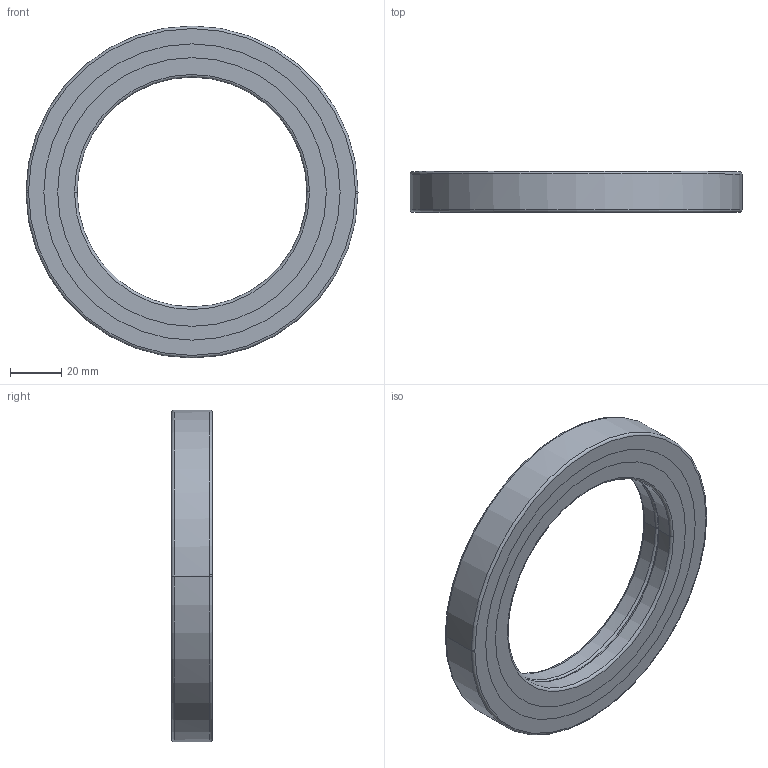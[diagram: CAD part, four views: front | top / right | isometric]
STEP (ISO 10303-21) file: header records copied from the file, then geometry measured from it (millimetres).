
FILE_DESCRIPTION(('no description'),'unknown implementation level');
FILE_NAME('CRBB09016_60.stp',' ',('HIWIN GmbH'),('CADClick - KiM GmbH - www.kimweb.de'),'unknown preprocess','ACIS','unknown authorization');
FILE_SCHEMA(('automotive_design'));
Length unit declared in the file: millimetre
Products named in the file (5): CRBB09016_1; CRBB09016_2; CRBB09016_3; CRBB09016_4; CRBB09016
Bounding box: 130 x 16 x 130 mm (x, y, z)
Volume: 86711.9 mm3; surface area: 46010.4 mm2
Topology: 5 solids, 5 shells, 54 faces, 120 edges, 76 vertices
Faces by surface type: torus 24, cylinder 20, plane 10
Entity records: 3096 total; most frequent: DIRECTION 338, STYLED_ITEM 255, PRESENTATION_STYLE_ASSIGNMENT 255, CARTESIAN_POINT 255, COLOUR_RGB 255, ORIENTED_EDGE 240, AXIS2_PLACEMENT_3D 159, EDGE_CURVE 120
